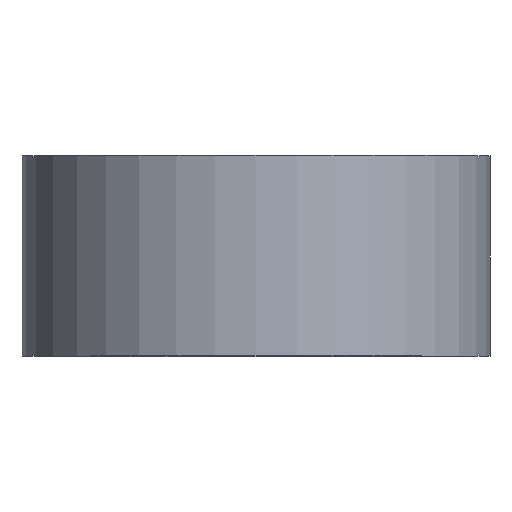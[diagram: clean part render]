
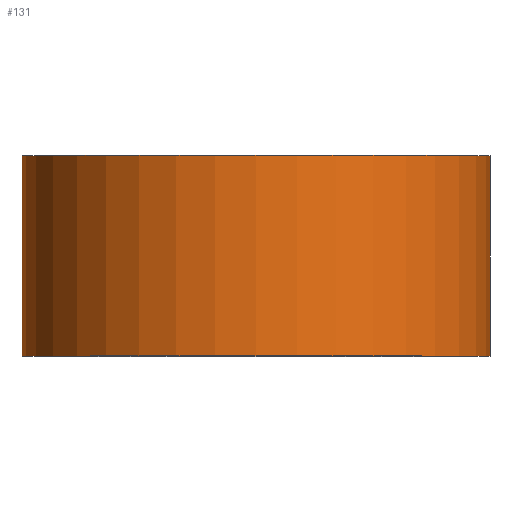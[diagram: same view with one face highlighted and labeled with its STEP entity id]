
A CAD part, top view. The second image highlights one B-rep face of the part: STEP entity #131.
In plain terms, the highlighted cylindrical face has radius 35 mm (diameter 70 mm), a partial arc.
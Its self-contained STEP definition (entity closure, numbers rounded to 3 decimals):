
#8 = VERTEX_POINT ( 'NONE', #140 ) ;
#9 = DIRECTION ( 'NONE',  ( -1., 0., 0. ) ) ;
#13 = EDGE_CURVE ( 'NONE', #108, #83, #188, .T. ) ;
#22 = ORIENTED_EDGE ( 'NONE', *, *, #13, .F. ) ;
#27 = AXIS2_PLACEMENT_3D ( 'NONE', #273, #76, #9 ) ;
#29 = CARTESIAN_POINT ( 'NONE',  ( 35., 0., 0. ) ) ;
#35 = DIRECTION ( 'NONE',  ( 0., 1., 0. ) ) ;
#37 = CARTESIAN_POINT ( 'NONE',  ( -35., 0., 0. ) ) ;
#42 = DIRECTION ( 'NONE',  ( 0., 1., 0. ) ) ;
#59 = CIRCLE ( 'NONE', #295, 35. ) ;
#76 = DIRECTION ( 'NONE',  ( 0., 1., 0. ) ) ;
#83 = VERTEX_POINT ( 'NONE', #237 ) ;
#97 = EDGE_CURVE ( 'NONE', #83, #8, #292, .T. ) ;
#107 = EDGE_CURVE ( 'NONE', #108, #222, #59, .T. ) ;
#108 = VERTEX_POINT ( 'NONE', #176 ) ;
#112 = CARTESIAN_POINT ( 'NONE',  ( 35., 0., 0. ) ) ;
#124 = VECTOR ( 'NONE', #251, 1000. ) ;
#125 = AXIS2_PLACEMENT_3D ( 'NONE', #143, #42, #141 ) ;
#131 = ADVANCED_FACE ( 'NONE', ( #254 ), #285, .T. ) ;
#132 = DIRECTION ( 'NONE',  ( 0., 1., 0. ) ) ;
#136 = VECTOR ( 'NONE', #35, 1000. ) ;
#140 = CARTESIAN_POINT ( 'NONE',  ( 35., 30., 0. ) ) ;
#141 = DIRECTION ( 'NONE',  ( -1., 0., 0. ) ) ;
#143 = CARTESIAN_POINT ( 'NONE',  ( 0., 0., 0. ) ) ;
#154 = CARTESIAN_POINT ( 'NONE',  ( 0., 0., 0. ) ) ;
#164 = ORIENTED_EDGE ( 'NONE', *, *, #97, .F. ) ;
#176 = CARTESIAN_POINT ( 'NONE',  ( -35., 0., 0. ) ) ;
#188 = LINE ( 'NONE', #37, #124 ) ;
#202 = ORIENTED_EDGE ( 'NONE', *, *, #297, .T. ) ;
#222 = VERTEX_POINT ( 'NONE', #29 ) ;
#233 = EDGE_LOOP ( 'NONE', ( #281, #202, #164, #22 ) ) ;
#237 = CARTESIAN_POINT ( 'NONE',  ( -35., 30., 0. ) ) ;
#245 = DIRECTION ( 'NONE',  ( -1., 0., 0. ) ) ;
#251 = DIRECTION ( 'NONE',  ( 0., 1., 0. ) ) ;
#254 = FACE_OUTER_BOUND ( 'NONE', #233, .T. ) ;
#260 = LINE ( 'NONE', #112, #136 ) ;
#273 = CARTESIAN_POINT ( 'NONE',  ( 0., 30., 0. ) ) ;
#281 = ORIENTED_EDGE ( 'NONE', *, *, #107, .T. ) ;
#285 = CYLINDRICAL_SURFACE ( 'NONE', #125, 35. ) ;
#292 = CIRCLE ( 'NONE', #27, 35. ) ;
#295 = AXIS2_PLACEMENT_3D ( 'NONE', #154, #132, #245 ) ;
#297 = EDGE_CURVE ( 'NONE', #222, #8, #260, .T. ) ;
